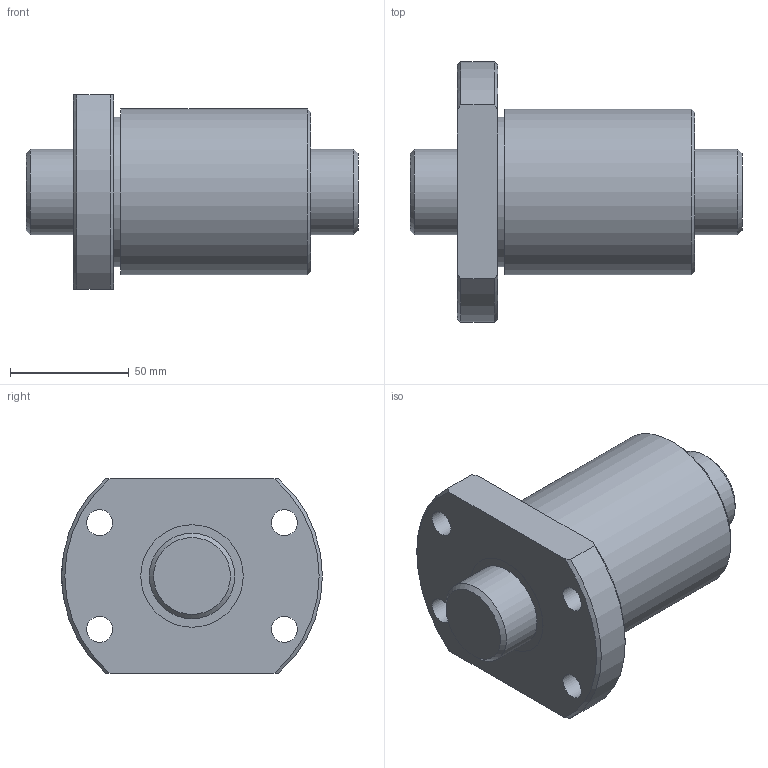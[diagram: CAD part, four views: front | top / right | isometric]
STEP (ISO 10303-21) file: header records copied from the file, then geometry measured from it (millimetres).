
FILE_DESCRIPTION(/* description */ ('STEP AP203'),/* implementation_level */ '2;1');
FILE_NAME(/* name */ 'BTK3610V-5.3ZZ+140LC7T_000',/* time_stamp */ '2025-01-16T07:58:16+01:00',/* author */ ('License CC BY-ND 4.0'),/* organization */ ('CADENAS'),/* preprocessor_version */ 'ST-DEVELOPER v19.3',/* originating_system */ 'PARTsolutions',/* authorisation */ ' ');
FILE_SCHEMA (('CONFIG_CONTROL_DESIGN'));
Length unit declared in the file: millimetre
Products named in the file (3): BTK3610V-5.3ZZ+140LC7T_000; BTK 3610V-5.300 Shaft; BTK 3610V-5.3ZZ Nut
Assembly tree (2 placements, depth 2):
  BTK3610V-5.3ZZ+140LC7T_000
    BTK 3610V-5.300 Shaft
    BTK 3610V-5.3ZZ Nut
Bounding box: 140 x 110 x 82 mm (x, y, z)
Volume: 487437 mm3; surface area: 70006 mm2
Topology: 2 solids, 2 shells, 31 faces, 66 edges, 43 vertices
Faces by surface type: cylinder 13, plane 10, cone 8
Full cylindrical faces by diameter (mm): 4.917 x1, 11 x4, 36 x2, 43.2 x2, 63 x1, 70 x1
Entity records: 887 total; most frequent: CARTESIAN_POINT 170, DIRECTION 140, ORIENTED_EDGE 100, AXIS2_PLACEMENT_3D 66, EDGE_LOOP 62, FACE_BOUND 62, EDGE_CURVE 50, VERTEX_POINT 42
